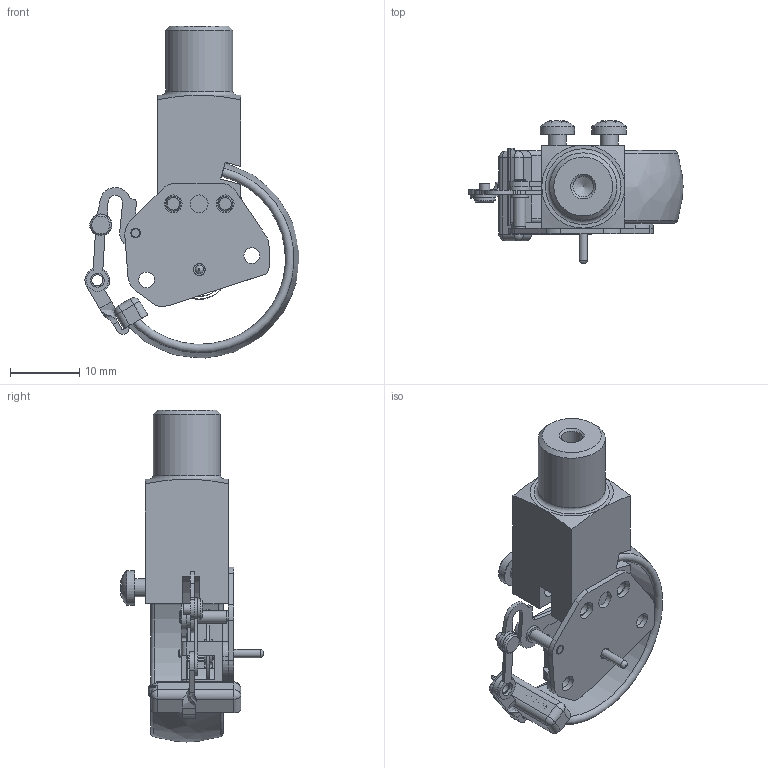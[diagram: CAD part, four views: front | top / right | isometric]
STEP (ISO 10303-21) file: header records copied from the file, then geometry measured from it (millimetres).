
FILE_DESCRIPTION(/* description */ (''),/* implementation_level */ '2;1');
FILE_NAME(/* name */ 'I:\Engineering\BGPL\Technical_Documentation\Drawings\3D_GAUGES\M1-40ABS\M1-ABS 40 G1_8B - Simple\M1-ABS 40 G1_8B - Simple.stp',/* time_stamp */ '2018-07-16T09:23:10+03:00',/* author */ ('aleksaim'),/* organization */ (''),/* preprocessor_version */ 'ST-DEVELOPER v17',/* originating_system */ 'Autodesk Inventor 2018',/* authorisation */ '');
FILE_SCHEMA (('AUTOMOTIVE_DESIGN { 1 0 10303 214 3 1 1 }'));
Length unit declared in the file: millimetre
Products named in the file (15): M1-ABS 40 G1_8B - Simple; MPEROTT135; MMINACC021; MMOVOTT001; Part4-; mov_plate2; mov_gear_shaft; mov_sector; mov_shaft; mov_fix_spiral_to_shaft; mov_Spiral; mov_Rivet; mov_lever1; MMOLBRZ112; MMINOTT001
Assembly tree (15 placements, depth 3):
  M1-ABS 40 G1_8B - Simple
    MPEROTT135
    MMINACC021  x2
    MMOVOTT001
      Part4-
      mov_plate2
      mov_gear_shaft
      mov_sector
      mov_shaft
      mov_fix_spiral_to_shaft
      mov_Spiral
      mov_Rivet
      mov_lever1
    MMOLBRZ112
    MMINOTT001
Bounding box: 30.96 x 20.71 x 47.99 mm (x, y, z)
Volume: 3886 mm3; surface area: 6418.6 mm2
Topology: 14 solids, 14 shells, 534 faces, 1416 edges, 911 vertices
Faces by surface type: plane 298, cylinder 138, bspline 64, cone 13, torus 11, sphere 10
Full cylindrical faces by diameter (mm): 1.2 x2, 1.3 x2, 1.38 x1, 1.4 x1, 1.5 x2, 1.6 x1, 1.7 x1, 1.8 x2, 1.9 x1, 2 x3, 2.2 x4, 2.27 x4, 2.4 x2, 2.5 x2, 2.55 x3, 2.6 x2, 3 x3, 5 x2, 9.73 x1
Entity records: 18687 total; most frequent: CARTESIAN_POINT 5345, ORIENTED_EDGE 2686, DIRECTION 2638, EDGE_CURVE 1343, LINE 882, VECTOR 882, AXIS2_PLACEMENT_3D 878, VERTEX_POINT 867
